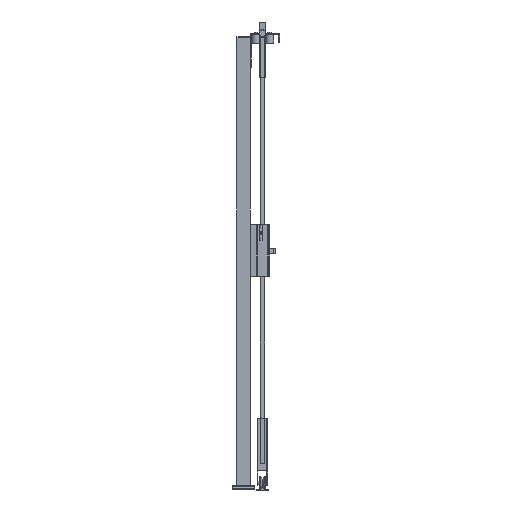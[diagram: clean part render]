
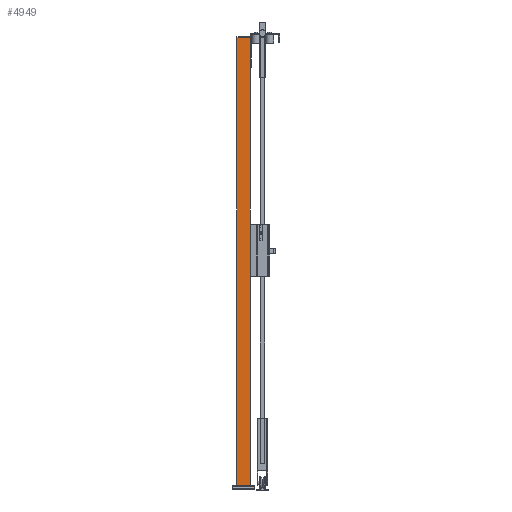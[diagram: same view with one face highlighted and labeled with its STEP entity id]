
A CAD part, left-side view. The second image highlights one B-rep face of the part: STEP entity #4949.
In plain terms, the highlighted planar face has unit normal (-1, 0, 0) as drawn and (0, 1, 0) by its records, which use the part's own axes.
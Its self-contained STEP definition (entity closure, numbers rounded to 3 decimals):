
#572=FACE_OUTER_BOUND('',#937,.T.);
#937=EDGE_LOOP('',(#3279,#3280,#3281,#3282));
#1370=VERTEX_POINT('',#10944);
#1371=VERTEX_POINT('',#10946);
#1373=VERTEX_POINT('',#10952);
#1376=VERTEX_POINT('',#10957);
#2103=EDGE_CURVE('',#1370,#1371,#5990,.T.);
#2109=EDGE_CURVE('',#1376,#1373,#5996,.T.);
#2112=EDGE_CURVE('',#1371,#1376,#5999,.T.);
#2113=EDGE_CURVE('',#1370,#1373,#6000,.T.);
#3279=ORIENTED_EDGE('',*,*,#2113,.T.);
#3280=ORIENTED_EDGE('',*,*,#2109,.F.);
#3281=ORIENTED_EDGE('',*,*,#2112,.F.);
#3282=ORIENTED_EDGE('',*,*,#2103,.F.);
#4630=PLANE('',#7563);
#4949=ADVANCED_FACE('',(#572),#4630,.F.);
#5990=LINE('',#10947,#6889);
#5996=LINE('',#10959,#6895);
#5999=LINE('',#10964,#6898);
#6000=LINE('',#10966,#6899);
#6889=VECTOR('',#8593,1.);
#6895=VECTOR('',#8601,1.);
#6898=VECTOR('',#8608,1.);
#6899=VECTOR('',#8611,1.);
#7563=AXIS2_PLACEMENT_3D('',#10965,#8609,#8610);
#8593=DIRECTION('',(-1.,0.,0.));
#8601=DIRECTION('',(1.,0.,0.));
#8608=DIRECTION('',(0.,0.,-1.));
#8609=DIRECTION('center_axis',(0.,-1.,0.));
#8610=DIRECTION('ref_axis',(0.,0.,-1.));
#8611=DIRECTION('',(0.,0.,-1.));
#10944=CARTESIAN_POINT('',(30.,30.,2020.));
#10946=CARTESIAN_POINT('',(-30.,30.,2020.));
#10947=CARTESIAN_POINT('',(0.,30.,2020.));
#10952=CARTESIAN_POINT('',(30.,30.,20.));
#10957=CARTESIAN_POINT('',(-30.,30.,20.));
#10959=CARTESIAN_POINT('',(0.,30.,20.));
#10964=CARTESIAN_POINT('',(-30.,30.,1020.));
#10965=CARTESIAN_POINT('Origin',(0.,30.,
1020.));
#10966=CARTESIAN_POINT('',(30.,30.,1020.));
